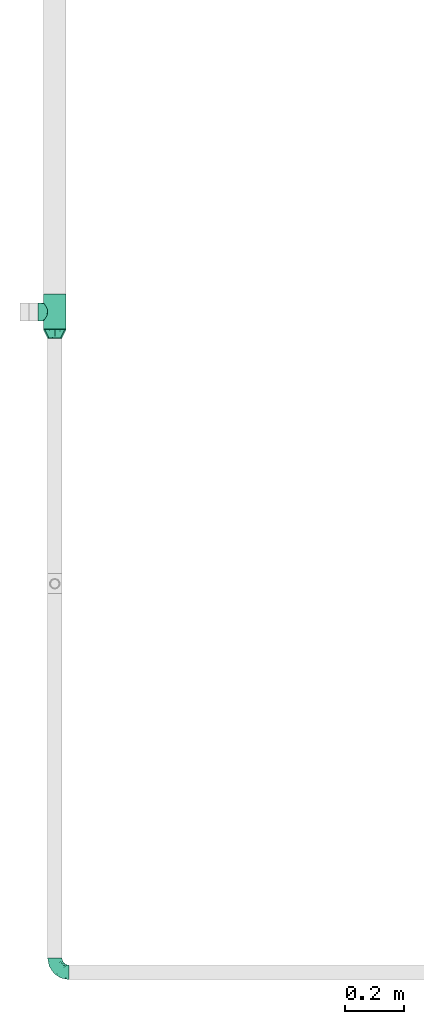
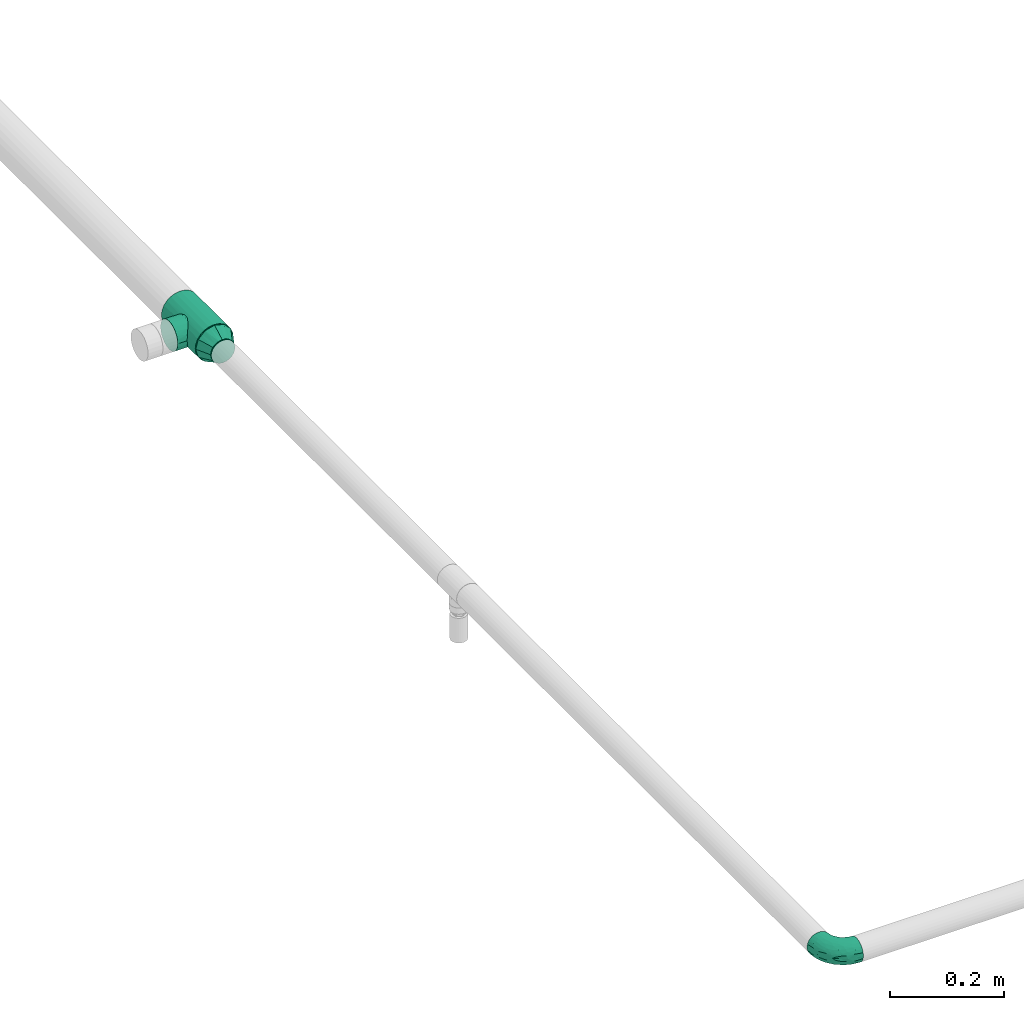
# One storey, part 26 of 32: 3 flow fittings.
"""IFC2X3 building model written with IfcOpenShell, lengths in millimetres."""

from ifc_helpers import new_model, entity, si_unit, converted_unit, derived_unit, direction, frame, origin_with_axes, place, context, subcontext, project, spatial, open_shell, surface_model, source, transform, mapped, type_object, element, save


model = new_model("IFC2X3")

# Units and contexts
model_context = context("Model", 3, precision=0.01, world=frame((0.0, 4.29681676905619e-09, 0.0)), true_north=direction((4.01073788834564e-13, 1.0)))
plan_context = context("Plan", 3, precision=0.01, world=frame((0.0, 4.29681676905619e-09, 0.0)), true_north=direction((4.01073788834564e-13, 1.0)))
body_context = subcontext(model_context, "Body", "Model", "MODEL_VIEW")
ifc_project = project(units=[converted_unit("PLANEANGLEUNIT", "DEGREE", entity("IfcPositiveLengthMeasure", 0.0174532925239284), si_unit("PLANEANGLEUNIT", "RADIAN"), dimensions=[0, 0, 0, 0, 0, 0, 0]), si_unit("AREAUNIT", "SQUARE_METRE"), si_unit("LENGTHUNIT", "METRE", prefix="MILLI"), si_unit("MASSUNIT", "GRAM", prefix="KILO"), si_unit("POWERUNIT", "WATT"), si_unit("PRESSUREUNIT", "PASCAL", prefix="KILO"), si_unit("FORCEUNIT", "NEWTON", prefix="KILO"), si_unit("ELECTRICVOLTAGEUNIT", "VOLT"), si_unit("ELECTRICCURRENTUNIT", "AMPERE"), si_unit("THERMODYNAMICTEMPERATUREUNIT", "DEGREE_CELSIUS"), si_unit("TIMEUNIT", "SECOND"), si_unit("VOLUMEUNIT", "CUBIC_METRE"), derived_unit("LINEARVELOCITYUNIT", [(si_unit("LENGTHUNIT", "METRE"), 1), (si_unit("TIMEUNIT", "SECOND"), -1)]), derived_unit("VOLUMETRICFLOWRATEUNIT", [(si_unit("VOLUMEUNIT", "CUBIC_METRE"), 1), (si_unit("TIMEUNIT", "SECOND"), -1)]), derived_unit("THERMALTRANSMITTANCEUNIT", [(si_unit("POWERUNIT", "WATT"), 1), (si_unit("THERMODYNAMICTEMPERATUREUNIT", "KELVIN"), -1), (si_unit("AREAUNIT", "SQUARE_METRE"), -1)]), derived_unit("SOUNDPRESSUREUNIT", [(si_unit("PRESSUREUNIT", "PASCAL"), 1)])], contexts=[model_context, plan_context])

# Site, building, storey
site_placement = place(None, frame((0.0, -4.29681676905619e-09, 0.0), z_axis=(0.0, 0.0, 1.0), x_axis=(1.0, 0.0, 0.0)))
site = spatial("IfcSite", under=ifc_project, at=site_placement, CompositionType="ELEMENT")
building_placement = place(site_placement, frame((0.0, 4.29681676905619e-09, 0.0), z_axis=(0.0, 0.0, 1.0), x_axis=(1.0, 0.0, 0.0)))
building = spatial("IfcBuilding", under=site, at=building_placement, Name="mc-building", CompositionType="ELEMENT")
storey_placement = place(building_placement, frame((0.0, 0.0, 205200.0), z_axis=(0.0, 0.0, 1.0), x_axis=(1.0, 0.0, 0.0)))
storey = spatial("IfcBuildingStorey", under=building, at=storey_placement, Name="Nivå D + 1,2 m", CompositionType="ELEMENT", Elevation=205200.0)

# Flow fittings
pipe_fitting_type_1 = type_object("IfcPipeFittingType", Name="magi_pipe_fe_tee_centric_90_001", PredefinedType="JUNCTION")
shared_shape_1 = source(origin_with_axes(), body_context, "Body", "SurfaceModel", [
    surface_model("IfcShellBasedSurfaceModel", [(-60.4, 9.86101, -36.80177), (-60.4, 0.0, -38.1), (-60.4, 36.80177, -9.86101), (-60.4, 19.05, -32.99557), (-60.4, 32.99557, -19.05), (-60.4, 26.94077, -26.94077), (-60.4, -38.1, 0.0), (-60.4, -19.05, -32.99557), (-60.4, -26.94077, -26.94077), (-60.4, -9.86101, -36.80177), (-60.4, -32.99557, -19.05), (-60.4, -36.80177, -9.86101), (-60.4, 38.1, 0.0), (-60.4, 32.99557, 19.05), (-60.4, 36.80177, 9.86101), (-60.4, -36.80177, 9.86101), (-60.4, 19.05, 32.99557), (-60.4, 26.94077, 26.94077), (-60.4, 9.86101, 36.80177), (-60.4, 0.0, 38.1), (-60.4, -26.94077, 26.94077), (-60.4, -32.99557, 19.05), (-60.4, -9.86101, 36.80177), (-60.4, -19.05, 32.99557), (60.4, 0.0, -38.1), (60.4, 9.86101, -36.80177), (60.4, 19.05, -32.99557), (60.4, 26.94077, -26.94077), (60.4, 32.99557, -19.05), (60.4, 36.80177, -9.86101), (60.4, -38.1, 0.0), (60.4, -9.86101, -36.80177), (60.4, -26.94077, -26.94077), (60.4, -19.05, -32.99557), (60.4, -32.99557, -19.05), (60.4, -36.80177, -9.86101), (60.4, 36.80177, 9.86101), (60.4, 32.99557, 19.05), (60.4, 19.05, 32.99557), (60.4, 0.0, 38.1), (60.4, 26.94077, 26.94077), (60.4, 9.86101, 36.80177), (60.4, -26.94077, 26.94077), (60.4, -32.99557, 19.05), (60.4, -36.80177, 9.86101), (60.4, -19.05, 32.99557), (60.4, -9.86101, 36.80177), (60.4, 38.1, 0.0), (30.2, -38.1, 0.0), (28.21297, -36.54506, 10.7735), (22.90358, -32.62122, 19.68415), (15.23524, -27.77917, 26.07542), (5.49864, -23.87059, 29.6952), (-30.2, -38.1, 0.0), (-28.21409, -36.54593, 10.77057), (-15.2375, -27.78041, 26.0741), (-5.50829, -23.87281, 29.69341), (-22.9083, -32.62453, 19.67866), (5.49864, -23.87059, -29.6952), (22.90358, -32.62122, -19.68415), (15.23524, -27.77917, -26.07542), (28.21297, -36.54506, -10.7735), (-5.50829, -23.87281, -29.69341), (-15.2375, -27.78041, -26.0741), (-22.9083, -32.62453, -19.67866), (-28.21409, -36.54593, -10.77057), (-21.35462, -57.15, -21.35462), (0.0, -57.15, -30.2), (7.81634, -57.15, -29.17096), (15.1, -57.15, -26.15397), (-30.2, -57.15, 0.0), (26.15397, -57.15, -15.1), (21.35462, -57.15, -21.35462), (26.15397, -57.15, 15.1), (-7.81634, -57.15, -29.17096), (-15.1, -57.15, -26.15397), (-29.17096, -57.15, -7.81634), (-26.15397, -57.15, -15.1), (29.17096, -57.15, -7.81634), (30.2, -57.15, 0.0), (29.17096, -57.15, 7.81634), (7.81634, -57.15, 29.17096), (15.1, -57.15, 26.15397), (21.35462, -57.15, 21.35462), (-21.35462, -57.15, 21.35462), (-26.15397, -57.15, 15.1), (-29.17096, -57.15, 7.81634), (-15.1, -57.15, 26.15397), (0.0, -57.15, 30.2), (-7.81634, -57.15, 29.17096), (-29.20704, -37.32296, 5.38529), (29.20648, -37.32253, 5.38675), (-0.00482, -23.8717, 29.69431), (29.20648, -37.32253, -5.38675), (-29.20704, -37.32296, -5.38529), (-0.00482, -23.8717, -29.69431)], [open_shell([[[0, 1, 2]], [[3, 0, 2]], [[2, 4, 5]], [[3, 2, 5]], [[6, 2, 1]], [[7, 8, 9]], [[8, 1, 9]], [[10, 11, 8]], [[6, 8, 11]], [[8, 6, 1]], [[6, 12, 2]], [[13, 14, 12]], [[15, 13, 6]], [[16, 13, 15]], [[17, 13, 16]], [[18, 16, 19]], [[20, 19, 21]], [[16, 15, 21]], [[22, 19, 23]], [[20, 23, 19]], [[21, 19, 16]], [[12, 6, 13]], [[24, 25, 26]], [[24, 26, 27]], [[27, 28, 29]], [[24, 27, 30]], [[30, 27, 29]], [[31, 32, 33]], [[31, 24, 32]], [[34, 30, 35]], [[30, 34, 32]], [[24, 30, 32]], [[29, 36, 30]], [[36, 37, 30]], [[30, 37, 38]], [[38, 39, 30]], [[38, 37, 40]], [[39, 38, 41]], [[30, 42, 43]], [[44, 30, 43]], [[45, 39, 46]], [[45, 42, 30]], [[30, 39, 45]], [[36, 29, 47]], [[30, 44, 48]], [[49, 48, 44]], [[44, 43, 49]], [[43, 42, 50]], [[51, 50, 42]], [[52, 51, 42]], [[42, 45, 52]], [[43, 50, 49]], [[53, 54, 15]], [[15, 6, 53]], [[54, 21, 15]], [[55, 56, 20]], [[21, 57, 20]], [[57, 21, 54]], [[20, 57, 55]], [[56, 23, 20]], [[52, 23, 56]], [[19, 46, 39]], [[22, 45, 46]], [[18, 39, 41]], [[37, 36, 14]], [[17, 38, 40]], [[13, 40, 37]], [[41, 38, 16]], [[12, 36, 47]], [[23, 45, 22]], [[22, 46, 19]], [[18, 19, 39]], [[41, 16, 18]], [[16, 38, 17]], [[13, 17, 40]], [[14, 13, 37]], [[36, 12, 14]], [[45, 23, 52]], [[29, 28, 4]], [[28, 27, 5]], [[47, 29, 12]], [[24, 31, 9]], [[25, 0, 26]], [[1, 25, 24]], [[26, 3, 27]], [[7, 31, 33]], [[2, 12, 29]], [[28, 5, 4]], [[2, 29, 4]], [[27, 3, 5]], [[3, 26, 0]], [[1, 0, 25]], [[9, 1, 24]], [[31, 7, 9]], [[33, 58, 7]], [[32, 59, 60]], [[59, 32, 34]], [[60, 58, 32]], [[32, 58, 33]], [[35, 30, 48]], [[35, 61, 34]], [[61, 35, 48]], [[34, 61, 59]], [[62, 63, 8]], [[8, 64, 10]], [[64, 8, 63]], [[62, 8, 7]], [[65, 53, 11]], [[65, 11, 10]], [[11, 53, 6]], [[65, 10, 64]], [[58, 62, 7]], [[66, 67, 68]], [[69, 66, 68]], [[70, 69, 71]], [[71, 69, 72]], [[73, 70, 71]], [[74, 66, 75]], [[74, 67, 66]], [[66, 76, 77]], [[76, 66, 70]], [[69, 70, 66]], [[71, 78, 79]], [[79, 80, 73]], [[81, 70, 73]], [[82, 81, 73]], [[82, 73, 83]], [[70, 81, 84]], [[70, 85, 86]], [[84, 85, 70]], [[87, 88, 89]], [[88, 87, 84]], [[81, 88, 84]], [[73, 71, 79]], [[86, 90, 70]], [[57, 85, 84]], [[91, 49, 80]], [[86, 85, 54]], [[84, 87, 55]], [[90, 53, 70]], [[54, 85, 57]], [[55, 89, 56]], [[55, 57, 84]], [[88, 52, 92]], [[55, 87, 89]], [[88, 56, 89]], [[51, 81, 82]], [[86, 54, 90]], [[83, 51, 82]], [[49, 73, 80]], [[83, 73, 50]], [[52, 88, 81]], [[81, 51, 52]], [[92, 56, 88]], [[51, 83, 50]], [[50, 73, 49]], [[79, 91, 80]], [[91, 79, 48]], [[78, 93, 79]], [[59, 71, 72]], [[94, 65, 76]], [[78, 71, 61]], [[72, 69, 60]], [[93, 48, 79]], [[61, 71, 59]], [[60, 68, 58]], [[60, 59, 72]], [[67, 62, 95]], [[60, 69, 68]], [[67, 58, 68]], [[63, 74, 75]], [[78, 61, 93]], [[66, 63, 75]], [[65, 77, 76]], [[66, 77, 64]], [[62, 67, 74]], [[74, 63, 62]], [[95, 58, 67]], [[63, 66, 64]], [[64, 77, 65]], [[70, 94, 76]], [[94, 70, 53]]])]),
])
flow_fitting_1_placement = place(storey_placement, frame((323497.5, 461650.99192, 4347.43145999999), z_axis=(0.0, 0.0, -1.0), x_axis=(0.0, 1.0, 0.0)))
element("IfcFlowFitting", 1, at=flow_fitting_1_placement, inside=storey, type_object=pipe_fitting_type_1, Name="magi_pipe_fe_tee_centric_90_001", context=body_context, shape_type="MappedRepresentation", body=[
    mapped(shared_shape_1, transform((0.0, 0.0, 0.0), scale=1.0)),
])
pipe_fitting_type_2 = type_object("IfcPipeFittingType", Name="magi_pipe_fe_reducer_centric_short_001", PredefinedType="TRANSITION")
shared_shape_2 = source(origin_with_axes(), body_context, "Body", "SurfaceModel", [
    surface_model("IfcShellBasedSurfaceModel", [(-2.0, 9.86101, 36.80177), (-2.0, -38.1, 0.0), (-2.0, 0.0, 38.1), (-2.0, 26.94077, 26.94077), (-2.0, 19.05, 32.99557), (-2.0, 32.99557, 19.05), (-2.0, 36.80177, 9.86101), (-2.0, -9.86101, 36.80177), (-2.0, -26.94077, 26.94077), (-2.0, -19.05, 32.99557), (-2.0, -32.99557, 19.05), (-2.0, -36.80177, 9.86101), (-2.0, 36.80177, -9.86101), (-2.0, -32.99557, -19.05), (-2.0, 9.86101, -36.80177), (-2.0, 32.99557, -19.05), (-2.0, 26.94077, -26.94077), (-2.0, 19.05, -32.99557), (-2.0, -26.94077, -26.94077), (-2.0, -36.80177, -9.86101), (-2.0, -19.05, -32.99557), (-2.0, 0.0, -38.1), (-2.0, -9.86101, -36.80177), (-2.0, 38.1, 0.0), (0.0, 9.86101, -36.80177), (0.0, 19.05, -32.99557), (0.0, 26.94077, -26.94077), (0.0, 36.80177, -9.86101), (0.0, -26.94077, -26.94077), (0.0, 32.99557, -19.05), (0.0, -38.1, 0.0), (0.0, 0.0, -38.1), (0.0, -19.05, -32.99557), (0.0, -9.86101, -36.80177), (0.0, -32.99557, -19.05), (0.0, -36.80177, -9.86101), (0.0, 38.1, 0.0), (0.0, 36.80177, 9.86101), (0.0, 32.99557, 19.05), (0.0, 26.94077, 26.94077), (0.0, 0.0, 38.1), (0.0, 9.86101, 36.80177), (0.0, 19.05, 32.99557), (0.0, -9.86101, 36.80177), (0.0, -32.99557, 19.05), (0.0, -36.80177, 9.86101), (0.0, -26.94077, 26.94077), (0.0, -19.05, 32.99557), (29.8, -6.26342, -23.37541), (29.8, 0.0, -24.2), (29.8, 6.26342, -23.37541), (27.8, -12.1, 20.95781), (27.8, -6.26342, 23.37541), (27.8, 0.0, 24.2), (27.8, -19.57821, 14.2244), (27.8, -7.47821, -23.01557), (27.8, 24.2, 0.0), (0.0, -9.525, -35.54778), (27.8, 0.0, -23.01557), (0.0, 9.525, -35.54778), (27.8, 7.47821, -23.01557), (27.8, 13.52821, -18.61999), (27.8, -13.52821, -18.61999), (0.0, -26.02278, -26.02278), (0.0, 26.02278, -26.02278), (27.8, 7.47821, 23.01557), (0.0, 9.525, 35.54778), (27.8, 0.0, 23.01557), (0.0, -9.525, 35.54778), (27.8, -7.47821, 23.01557), (27.8, -13.52821, 18.61999), (27.8, 13.52821, 18.61999), (0.0, 26.02278, 26.02278), (0.0, -26.02278, 26.02278), (29.8, 12.1, -20.95781), (29.8, -24.2, 0.0), (29.8, 23.37541, -6.26342), (29.8, 17.11198, -17.11198), (29.8, 20.95781, -12.1), (29.8, -17.11198, -17.11198), (29.8, -12.1, -20.95781), (29.8, -23.37541, -6.26342), (29.8, -20.95781, -12.1), (29.8, 24.2, 0.0), (29.8, 23.37541, 6.26342), (29.8, 20.95781, 12.1), (29.8, 17.11198, 17.11198), (29.8, 12.1, 20.95781), (29.8, 6.26342, 23.37541), (29.8, 0.0, 24.2), (29.8, -23.37541, 6.26342), (29.8, -17.11198, 17.11198), (29.8, -20.95781, 12.1), (29.8, -6.26342, 23.37541), (29.8, -12.1, 20.95781), (27.8, 6.26342, 23.37541), (27.8, 12.1, 20.95781), (27.8, 17.11198, 17.11198), (27.8, 20.95781, 12.1), (27.8, 23.37541, 6.26342), (27.8, -23.37541, 6.26342), (27.8, -17.11198, -17.11198), (27.8, -17.11198, 17.11198), (27.8, -20.95781, 12.1), (27.8, -24.2, 0.0), (27.8, 17.11198, -17.11198), (27.8, 23.37541, -6.26342), (27.8, 20.95781, -12.1), (27.8, 12.1, -20.95781), (27.8, 6.26342, -23.37541), (27.8, -23.37541, -6.26342), (27.8, -20.95781, -12.1), (27.8, -6.26342, -23.37541), (27.8, -12.1, -20.95781), (27.8, 0.0, -24.2), (27.8, 19.57821, 14.2244), (27.8, -19.57821, -14.2244), (27.8, 19.57821, -14.2244), (27.8, 21.8891, -7.1122), (0.0, 35.43294, -9.95361), (27.8, -21.8891, -7.1122), (0.0, -35.43294, -9.95361), (27.8, -21.8891, 7.1122), (0.0, -35.43294, 9.95361), (27.8, 21.8891, 7.1122), (0.0, 35.43294, 9.95361)], [open_shell([[[0, 1, 2]], [[3, 0, 4]], [[3, 5, 6]], [[3, 6, 0]], [[1, 0, 6]], [[7, 8, 9]], [[8, 7, 10]], [[10, 1, 11]], [[1, 10, 7]], [[7, 2, 1]], [[6, 12, 1]], [[13, 1, 12]], [[14, 12, 15]], [[16, 17, 14]], [[16, 14, 15]], [[13, 12, 14]], [[14, 18, 13]], [[19, 1, 13]], [[20, 21, 22]], [[20, 18, 14]], [[20, 14, 21]], [[6, 23, 12]], [[24, 25, 26]], [[24, 26, 27]], [[24, 27, 28]], [[27, 26, 29]], [[28, 27, 30]], [[31, 32, 33]], [[31, 24, 32]], [[28, 32, 24]], [[28, 30, 34]], [[34, 30, 35]], [[27, 36, 37]], [[37, 38, 39]], [[37, 39, 40]], [[41, 40, 39]], [[41, 39, 42]], [[37, 40, 43]], [[30, 44, 45]], [[44, 30, 43]], [[46, 43, 47]], [[43, 46, 44]], [[30, 37, 43]], [[37, 30, 27]], [[19, 35, 1]], [[13, 34, 19]], [[32, 18, 20]], [[13, 18, 28]], [[33, 20, 22]], [[19, 34, 35]], [[35, 30, 1]], [[33, 32, 20]], [[28, 18, 32]], [[28, 34, 13]], [[31, 33, 22]], [[22, 21, 31]], [[14, 24, 21]], [[17, 25, 14]], [[29, 16, 15]], [[17, 16, 26]], [[27, 15, 12]], [[17, 26, 25]], [[25, 24, 14]], [[36, 27, 12]], [[29, 15, 27]], [[29, 26, 16]], [[23, 36, 12]], [[21, 24, 31]], [[6, 37, 23]], [[5, 38, 6]], [[42, 3, 4]], [[5, 3, 39]], [[41, 4, 0]], [[6, 38, 37]], [[37, 36, 23]], [[41, 42, 4]], [[39, 3, 42]], [[39, 38, 5]], [[40, 41, 0]], [[0, 2, 40]], [[7, 43, 2]], [[9, 47, 7]], [[44, 8, 10]], [[9, 8, 46]], [[45, 10, 11]], [[9, 46, 47]], [[47, 43, 7]], [[30, 45, 11]], [[44, 10, 45]], [[44, 46, 8]], [[1, 30, 11]], [[2, 43, 40]], [[38, 31, 30]], [[29, 25, 38]], [[25, 31, 38]], [[30, 32, 34]], [[30, 31, 32]], [[36, 29, 38]], [[48, 49, 50]], [[51, 52, 53]], [[54, 55, 56]], [[55, 32, 57]], [[58, 59, 60]], [[61, 60, 25]], [[32, 62, 63]], [[59, 25, 60]], [[32, 55, 62]], [[64, 61, 25]], [[55, 57, 58]], [[65, 42, 66]], [[67, 68, 69]], [[70, 69, 47]], [[42, 71, 72]], [[68, 47, 69]], [[42, 65, 71]], [[73, 70, 47]], [[65, 66, 67]], [[74, 75, 50]], [[76, 74, 77]], [[74, 76, 75]], [[76, 77, 78]], [[75, 79, 50]], [[48, 79, 80]], [[79, 81, 82]], [[48, 50, 79]], [[79, 75, 81]], [[83, 75, 76]], [[84, 85, 86]], [[83, 86, 75]], [[87, 88, 89]], [[87, 89, 86]], [[75, 86, 89]], [[90, 91, 92]], [[93, 90, 75]], [[91, 93, 94]], [[93, 91, 90]], [[75, 89, 93]], [[86, 83, 84]], [[53, 95, 96]], [[53, 96, 97]], [[97, 98, 99]], [[53, 97, 100]], [[97, 101, 100]], [[53, 102, 51]], [[102, 100, 103]], [[100, 102, 53]], [[100, 101, 104]], [[97, 99, 56]], [[105, 56, 106]], [[105, 106, 107]], [[108, 109, 56]], [[108, 56, 105]], [[109, 101, 97]], [[110, 101, 111]], [[104, 101, 110]], [[101, 112, 113]], [[101, 109, 112]], [[114, 112, 109]], [[97, 56, 109]], [[110, 81, 104]], [[111, 82, 110]], [[80, 101, 113]], [[111, 101, 79]], [[48, 113, 112]], [[110, 82, 81]], [[81, 75, 104]], [[48, 80, 113]], [[79, 101, 80]], [[79, 82, 111]], [[49, 48, 112]], [[112, 114, 49]], [[109, 50, 114]], [[108, 74, 109]], [[78, 105, 107]], [[108, 105, 77]], [[76, 107, 106]], [[108, 77, 74]], [[74, 50, 109]], [[83, 76, 106]], [[78, 107, 76]], [[78, 77, 105]], [[56, 83, 106]], [[114, 50, 49]], [[99, 84, 56]], [[98, 85, 99]], [[87, 97, 96]], [[98, 97, 86]], [[88, 96, 95]], [[99, 85, 84]], [[84, 83, 56]], [[88, 87, 96]], [[86, 97, 87]], [[86, 85, 98]], [[89, 88, 95]], [[95, 53, 89]], [[52, 93, 53]], [[51, 94, 52]], [[92, 102, 103]], [[51, 102, 91]], [[90, 103, 100]], [[51, 91, 94]], [[94, 93, 52]], [[75, 90, 100]], [[92, 103, 90]], [[92, 91, 102]], [[104, 75, 100]], [[53, 93, 89]], [[69, 54, 115]], [[69, 115, 65]], [[115, 54, 56]], [[55, 54, 116]], [[60, 117, 56]], [[56, 55, 60]], [[54, 104, 116]], [[40, 42, 38]], [[40, 38, 44]], [[40, 44, 47]], [[44, 38, 30]], [[61, 64, 117]], [[29, 118, 117]], [[119, 56, 118]], [[29, 119, 118]], [[34, 120, 121]], [[29, 117, 64]], [[121, 120, 104]], [[116, 34, 63]], [[56, 119, 36]], [[63, 62, 116]], [[120, 34, 116]], [[104, 30, 121]], [[58, 57, 31]], [[59, 58, 31]], [[70, 73, 54]], [[44, 122, 54]], [[123, 104, 122]], [[44, 123, 122]], [[38, 124, 125]], [[44, 54, 73]], [[125, 124, 56]], [[115, 38, 72]], [[104, 123, 30]], [[72, 71, 115]], [[124, 38, 115]], [[56, 36, 125]], [[67, 66, 40]], [[68, 67, 40]]])]),
])
flow_fitting_2_placement = place(storey_placement, frame((323497.5, 461590.59192, 4347.43145999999), z_axis=(0.0, 0.0, 1.0), x_axis=(0.0, -1.0, 0.0)))
element("IfcFlowFitting", 2, at=flow_fitting_2_placement, inside=storey, type_object=pipe_fitting_type_2, Name="magi_pipe_fe_reducer_centric_short_001", context=body_context, shape_type="MappedRepresentation", body=[
    mapped(shared_shape_2, transform((0.0, 0.0, 0.0), scale=1.0)),
])
pipe_fitting_type_3 = type_object("IfcPipeFittingType", Name="magi_pipe_fe_elbow_short_001", PredefinedType="BEND")
shared_shape_3 = source(origin_with_axes(), body_context, "Body", "SurfaceModel", [
    surface_model("IfcShellBasedSurfaceModel", [(-48.38764, 6.26342, -23.37541), (-48.38764, 0.0, -24.2), (-48.38764, 17.11198, -17.11198), (-48.38764, 12.1, -20.95781), (-48.38764, 20.95781, -12.1), (-48.38764, 24.2, 0.0), (-48.38764, -12.1, -20.95781), (-48.38764, -23.37541, -6.26342), (-48.38764, 12.1, 20.95781), (-48.38764, -17.11198, -17.11198), (-48.38764, -20.95781, -12.1), (-48.38764, -6.26342, -23.37541), (-48.38764, -24.2, 0.0), (-48.38764, -23.37541, 6.26342), (-48.38764, 23.37541, -6.26342), (-48.38764, 23.37541, 6.26342), (-48.38764, 20.95781, 12.1), (-48.38764, 6.26342, 23.37541), (-48.38764, 17.11198, 17.11198), (-48.38764, -12.1, 20.95781), (-48.38764, -20.95781, 12.1), (-48.38764, -17.11198, 17.11198), (-48.38764, -6.26342, 23.37541), (-48.38764, 0.0, 24.2), (-17.09963, 48.39201, -17.11198), (0.01235, 48.38764, -24.2), (-6.25107, 48.38924, -23.37541), (-12.08765, 48.39073, -20.95781), (-12.08765, 48.39073, 20.95781), (12.11235, 48.38456, -20.95781), (-20.94546, 48.39299, -12.1), (20.97017, 48.38229, -12.1), (17.12434, 48.38327, -17.11198), (6.27577, 48.38605, -23.37541), (23.38776, 48.38168, -6.26342), (23.38776, 48.38168, 6.26342), (24.21235, 48.38147, 0.0), (-23.36305, 48.39361, -6.26342), (-24.18765, 48.39382, 0.0), (-23.36305, 48.39361, 6.26342), (-20.94546, 48.39299, 12.1), (-6.25107, 48.38924, 23.37541), (-17.09963, 48.39201, 17.11198), (12.11235, 48.38456, 20.95781), (17.12434, 48.38327, 17.11198), (20.97017, 48.38229, 12.1), (6.27577, 48.38605, 23.37541), (0.01235, 48.38764, 24.2), (-35.49063, -18.80055, 13.58534), (-31.76641, -13.96153, 18.03294), (-34.49838, -21.43771, 0.0), (-21.37892, -15.41082, 12.21439), (-32.15027, -21.12187, 7.5477), (21.13007, 32.14488, 7.5477), (17.08051, 18.93948, 6.20352), (18.68069, 20.60434, 0.0), (-23.64582, 38.61842, 10.51796), (-20.20624, 37.67022, 15.89835), (-35.55756, -9.1509, 21.77265), (-36.95962, -3.20587, 23.7862), (-33.87707, 3.70949, 24.15873), (-8.83368, -10.80897, 0.0), (-18.94384, -17.07567, 6.20352), (-20.60911, -18.67543, 0.0), (-18.68881, -5.8749, 20.10531), (-24.08479, -0.21812, 23.45614), (-2.07134, -4.08921, 10.90789), (-0.4019, 0.49419, 14.45901), (-8.21909, -5.7969, 14.91196), (-37.81899, 20.17352, 15.88141), (-8.40439, 23.79266, 24.15644), (-17.91776, 17.92233, 23.61169), (-14.40418, 10.57232, 24.07557), (-41.85893, 14.65504, 19.7185), (-9.0228, 41.73508, 22.6675), (-3.30754, 36.18929, 24.14054), (-38.62442, 23.65176, 10.51634), (-38.25222, 25.77444, 5.31995), (-30.03757, 30.04524, 9.04587), (-37.29259, 9.49125, 22.86028), (-6.31046, 16.20031, 23.76187), (-12.01606, 4.43897, 22.59872), (-2.46387, 13.06952, 22.23953), (-4.31709, 4.31819, 19.78655), (13.96964, 31.76284, 18.03294), (15.41628, 21.37499, 12.21439), (18.80961, 35.48583, 13.58534), (-25.71998, 16.41748, 22.38337), (-26.58335, 10.36454, 23.76689), (3.21531, 36.9588, 23.7862), (9.15998, 35.55522, 21.77265), (5.87967, 18.68731, 20.10531), (21.44652, 34.4929, 0.0), (-23.73856, 5.92948, 24.18972), (-22.39608, 25.55032, 19.88474), (-33.31568, 16.42645, 20.37847), (-25.4634, 39.03474, 5.19171), (-30.32102, 31.73695, 4.25855), (11.05082, 19.5865, 16.55208), (-27.43189, 36.29643, 0.0), (-10.45716, 32.78488, 23.04691), (-13.80248, 25.04656, 23.26308), (-17.53662, 31.27189, 20.33922), (-19.2727, 23.42431, 22.0189), (-14.77416, 40.57154, 19.819), (-19.58932, -11.04582, 16.55208), (-25.08677, 32.07636, 13.69781), (-25.50186, 27.02172, 17.14148), (-31.07064, 26.0026, 13.49365), (0.22427, 24.08473, 23.45614), (5.51755, 8.39502, 15.32651), (-11.47397, -10.80201, 11.36099), (1.44369, -3.14542, 6.55813), (7.36109, 4.30668, 8.44565), (7.49724, 2.4871, 3.62838), (12.47003, 10.07717, 5.70189), (12.16983, 12.55184, 10.14132), (-36.28943, 27.44116, 0.0), (-6.50807, -9.62104, 7.02953), (2.94175, -2.9425, 0.0), (10.81122, 8.83092, 0.0), (-19.58932, -11.04582, -16.55208), (-31.76641, -13.96153, -18.03294), (-18.68881, -5.8749, -20.10531), (-21.37892, -15.41082, -12.21439), (-37.66506, 20.21585, -15.89835), (-40.56776, 14.78452, -19.819), (-39.02825, 25.47337, -5.19171), (-32.15027, -21.12187, -7.5477), (-30.03757, 30.04524, -9.04587), (-38.61238, 23.65567, -10.51796), (-18.94384, -17.07567, -6.20352), (-23.41939, 19.27868, -22.0189), (-25.04304, 13.80888, -23.26308), (-31.26741, 17.54461, -20.33922), (-14.64435, 41.86267, -19.7185), (-20.16387, 37.82414, -15.88141), (9.15998, 35.55522, -21.77265), (5.87967, 18.68731, -20.10531), (0.22427, 24.08473, -23.45614), (-41.73277, 9.03345, -22.6675), (-35.49063, -18.80055, -13.58534), (-35.55756, -9.1509, -21.77265), (-16.41091, 25.72417, -22.38337), (-9.48173, 37.29501, -22.86028), (-10.35776, 26.58599, -23.76689), (-36.95962, -3.20587, -23.7862), (-23.79051, 8.41046, -24.15644), (-17.91776, 17.92233, -23.61169), (-10.56864, 14.40687, -24.07557), (-36.18845, 3.31678, -24.14054), (-25.76467, 38.2588, -5.31995), (-23.6419, 38.63046, -10.51634), (-32.78221, 10.46553, -23.04691), (-31.7292, 30.32912, -4.25855), (-5.92342, 23.74007, -24.18972), (-25.5446, 22.40261, -19.88474), (-16.41795, 33.31987, -20.37847), (3.21531, 36.9588, -23.7862), (-3.70084, 33.87801, -24.15873), (18.80961, 35.48583, -13.58534), (13.96964, 31.76284, -18.03294), (7.49724, 2.4871, -3.62838), (12.47004, 10.07717, -5.7019), (-16.1987, 6.3146, -23.76187), (-4.4359, 12.0172, -22.59872), (-13.06889, 2.46721, -22.23953), (1.44369, -3.14542, -6.55813), (-6.50807, -9.62104, -7.02953), (-2.07134, -4.08921, -10.90789), (15.41628, 21.37499, -12.21439), (21.13007, 32.14488, -7.5477), (17.08051, 18.93948, -6.20352), (-32.06996, 25.09496, -13.69781), (11.05082, 19.5865, -16.55208), (12.16982, 12.55184, -10.14132), (5.51755, 8.39502, -15.32651), (-27.01521, 25.50876, -17.14148), (-25.99467, 31.07728, -13.49365), (-24.08479, -0.21812, -23.45614), (-4.31709, 4.31819, -19.78655), (-8.21909, -5.7969, -14.91196), (-11.47397, -10.80201, -11.36099), (-0.4019, 0.49419, -14.45901), (7.36109, 4.30668, -8.44566)], [open_shell([[[0, 1, 2]], [[3, 0, 2]], [[4, 2, 5]], [[6, 2, 1]], [[2, 7, 8]], [[9, 10, 6]], [[1, 11, 6]], [[10, 7, 6]], [[6, 7, 2]], [[12, 13, 7]], [[4, 5, 14]], [[8, 15, 2]], [[16, 15, 8]], [[8, 7, 17]], [[18, 16, 8]], [[7, 19, 17]], [[20, 21, 13]], [[21, 7, 13]], [[22, 23, 19]], [[21, 19, 7]], [[19, 23, 17]], [[15, 5, 2]], [[24, 25, 26]], [[24, 26, 27]], [[28, 29, 24]], [[24, 29, 25]], [[28, 24, 30]], [[29, 31, 32]], [[29, 33, 25]], [[29, 34, 31]], [[29, 28, 34]], [[34, 35, 36]], [[30, 37, 38]], [[38, 39, 40]], [[38, 40, 28]], [[41, 34, 28]], [[28, 40, 42]], [[41, 43, 34]], [[35, 44, 45]], [[44, 35, 43]], [[41, 46, 43]], [[35, 34, 43]], [[47, 46, 41]], [[28, 30, 38]], [[21, 48, 49]], [[13, 12, 50]], [[51, 48, 52]], [[53, 54, 55]], [[48, 21, 20]], [[13, 52, 20]], [[40, 56, 57]], [[49, 19, 21]], [[49, 58, 19]], [[23, 59, 60]], [[61, 62, 63]], [[58, 64, 65]], [[66, 67, 68]], [[16, 18, 69]], [[70, 71, 72]], [[8, 73, 18]], [[22, 59, 23]], [[41, 74, 75]], [[23, 60, 17]], [[16, 69, 76]], [[18, 73, 69]], [[5, 15, 77]], [[15, 16, 76]], [[77, 76, 78]], [[17, 79, 8]], [[80, 81, 82]], [[68, 83, 64]], [[84, 44, 43]], [[85, 86, 84]], [[87, 79, 88]], [[19, 58, 22]], [[47, 89, 46]], [[53, 35, 45]], [[47, 41, 75]], [[84, 90, 91]], [[45, 86, 53]], [[92, 35, 53]], [[86, 45, 44]], [[90, 43, 46]], [[53, 55, 92]], [[88, 93, 72]], [[54, 53, 85]], [[87, 94, 95]], [[78, 96, 97]], [[98, 84, 91]], [[99, 96, 38]], [[79, 17, 60]], [[96, 78, 56]], [[62, 52, 63]], [[57, 42, 40]], [[100, 70, 75]], [[101, 102, 103]], [[13, 50, 52]], [[104, 28, 42]], [[74, 41, 28]], [[57, 102, 104]], [[105, 64, 49]], [[90, 84, 43]], [[40, 39, 56]], [[56, 106, 57]], [[102, 57, 107]], [[95, 107, 69]], [[76, 108, 78]], [[100, 101, 70]], [[89, 75, 109]], [[64, 58, 49]], [[63, 52, 50]], [[59, 58, 65]], [[105, 49, 51]], [[64, 83, 81]], [[89, 90, 46]], [[36, 35, 92]], [[109, 82, 91]], [[109, 91, 90]], [[91, 83, 110]], [[111, 68, 105]], [[66, 68, 111]], [[62, 51, 52]], [[66, 112, 113]], [[114, 115, 113]], [[98, 85, 84]], [[52, 48, 20]], [[49, 48, 51]], [[84, 86, 44]], [[53, 86, 85]], [[88, 79, 60]], [[73, 79, 95]], [[96, 56, 39]], [[78, 108, 106]], [[87, 103, 94]], [[100, 74, 104]], [[108, 69, 107]], [[78, 97, 77]], [[88, 72, 71]], [[109, 75, 70]], [[81, 72, 65]], [[70, 72, 80]], [[75, 89, 47]], [[90, 89, 109]], [[58, 59, 22]], [[60, 59, 65]], [[67, 83, 68]], [[110, 113, 116]], [[88, 60, 93]], [[87, 88, 71]], [[103, 87, 71]], [[79, 87, 95]], [[101, 103, 71]], [[94, 103, 102]], [[38, 96, 39]], [[96, 99, 97]], [[99, 117, 97]], [[97, 117, 77]], [[5, 77, 117]], [[15, 76, 77]], [[60, 65, 93]], [[65, 72, 93]], [[70, 101, 71]], [[102, 101, 100]], [[69, 108, 76]], [[106, 108, 107]], [[57, 106, 107]], [[78, 106, 56]], [[57, 104, 42]], [[100, 104, 102]], [[102, 107, 94]], [[95, 94, 107]], [[64, 81, 65]], [[82, 81, 83]], [[91, 82, 83]], [[80, 82, 109]], [[70, 80, 109]], [[81, 80, 72]], [[79, 73, 8]], [[69, 73, 95]], [[104, 74, 28]], [[75, 74, 100]], [[62, 61, 118]], [[111, 62, 118]], [[113, 115, 116]], [[119, 118, 61]], [[111, 105, 51]], [[113, 112, 114]], [[120, 55, 54]], [[68, 64, 105]], [[91, 110, 98]], [[116, 98, 110]], [[62, 111, 51]], [[66, 111, 118]], [[112, 66, 118]], [[67, 113, 110]], [[118, 119, 112]], [[114, 112, 119]], [[119, 120, 114]], [[115, 120, 54]], [[120, 115, 114]], [[116, 54, 85]], [[54, 116, 115]], [[116, 85, 98]], [[113, 67, 66]], [[83, 67, 110]], [[121, 122, 123]], [[122, 121, 124]], [[4, 125, 2]], [[2, 126, 3]], [[117, 127, 5]], [[50, 7, 128]], [[127, 129, 130]], [[128, 131, 63]], [[132, 133, 134]], [[24, 135, 136]], [[137, 138, 139]], [[3, 140, 0]], [[128, 10, 141]], [[142, 6, 11]], [[128, 63, 50]], [[4, 14, 130]], [[10, 9, 141]], [[143, 144, 145]], [[146, 11, 1]], [[147, 148, 149]], [[10, 128, 7]], [[124, 141, 122]], [[150, 1, 0]], [[151, 152, 129]], [[125, 134, 126]], [[153, 147, 150]], [[127, 154, 129]], [[145, 155, 149]], [[38, 37, 151]], [[143, 156, 157]], [[152, 37, 30]], [[25, 158, 159]], [[122, 9, 6]], [[24, 27, 135]], [[144, 27, 26]], [[32, 160, 161]], [[25, 33, 158]], [[120, 162, 163]], [[130, 125, 4]], [[24, 136, 30]], [[0, 140, 150]], [[29, 161, 137]], [[142, 122, 6]], [[25, 159, 26]], [[164, 165, 166]], [[167, 168, 169]], [[31, 160, 32]], [[161, 29, 32]], [[170, 160, 171]], [[131, 128, 124]], [[36, 92, 34]], [[34, 92, 171]], [[172, 171, 55]], [[34, 171, 31]], [[144, 26, 159]], [[130, 173, 125]], [[174, 175, 176]], [[136, 152, 30]], [[29, 137, 33]], [[122, 142, 123]], [[134, 125, 177]], [[157, 177, 136]], [[152, 178, 129]], [[153, 133, 147]], [[146, 150, 179]], [[146, 142, 11]], [[12, 7, 50]], [[179, 166, 123]], [[179, 123, 142]], [[123, 180, 181]], [[138, 137, 161]], [[55, 171, 92]], [[158, 137, 139]], [[174, 161, 170]], [[138, 180, 165]], [[180, 138, 176]], [[124, 121, 182]], [[176, 183, 180]], [[61, 131, 168]], [[169, 168, 182]], [[172, 170, 171]], [[122, 141, 9]], [[128, 141, 124]], [[171, 160, 31]], [[161, 160, 170]], [[145, 144, 159]], [[135, 144, 157]], [[127, 130, 14]], [[129, 178, 173]], [[143, 132, 156]], [[153, 140, 126]], [[178, 136, 177]], [[129, 154, 151]], [[145, 149, 148]], [[179, 150, 147]], [[165, 149, 139]], [[147, 149, 164]], [[150, 146, 1]], [[142, 146, 179]], [[137, 158, 33]], [[159, 158, 139]], [[174, 138, 161]], [[184, 169, 183]], [[145, 159, 155]], [[143, 145, 148]], [[132, 143, 148]], [[144, 143, 157]], [[133, 132, 148]], [[156, 132, 134]], [[5, 127, 14]], [[127, 117, 154]], [[117, 99, 154]], [[154, 99, 151]], [[38, 151, 99]], [[37, 152, 151]], [[159, 139, 155]], [[139, 149, 155]], [[147, 133, 148]], [[134, 133, 153]], [[136, 178, 152]], [[173, 178, 177]], [[125, 173, 177]], [[129, 173, 130]], [[125, 126, 2]], [[153, 126, 134]], [[134, 177, 156]], [[157, 156, 177]], [[138, 165, 139]], [[166, 165, 180]], [[123, 166, 180]], [[164, 166, 179]], [[147, 164, 179]], [[165, 164, 149]], [[144, 135, 27]], [[136, 135, 157]], [[126, 140, 3]], [[150, 140, 153]], [[182, 131, 124]], [[168, 119, 61]], [[119, 167, 162]], [[63, 131, 61]], [[172, 163, 175]], [[172, 55, 120]], [[123, 181, 121]], [[182, 121, 181]], [[175, 174, 170]], [[176, 138, 174]], [[169, 182, 181]], [[131, 182, 168]], [[183, 169, 181]], [[167, 169, 184]], [[162, 167, 184]], [[119, 168, 167]], [[163, 162, 184]], [[120, 119, 162]], [[175, 163, 184]], [[120, 163, 172]], [[176, 175, 184]], [[172, 175, 170]], [[180, 183, 181]], [[184, 183, 176]]])]),
])
flow_fitting_3_placement = place(storey_placement, frame((323497.5, 459421.44382, 4347.43145999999), z_axis=(0.0, 0.0, 1.0), x_axis=(0.0, -1.0, 0.0)))
element("IfcFlowFitting", 3, at=flow_fitting_3_placement, inside=storey, type_object=pipe_fitting_type_3, Name="magi_pipe_fe_elbow_short_001", context=body_context, shape_type="MappedRepresentation", body=[
    mapped(shared_shape_3, transform((0.0, 0.0, 0.0), scale=1.0)),
])

save(model, "model.ifc")
